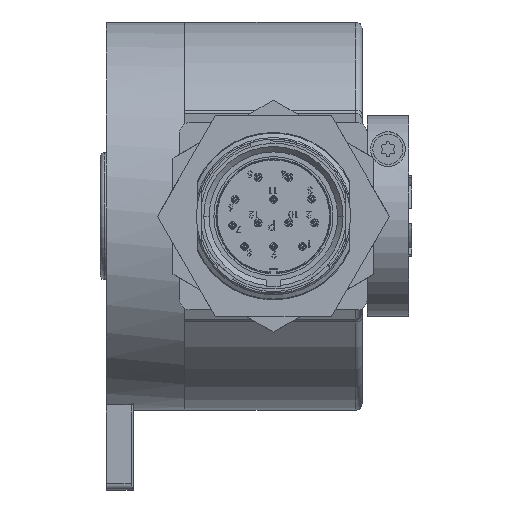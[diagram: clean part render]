
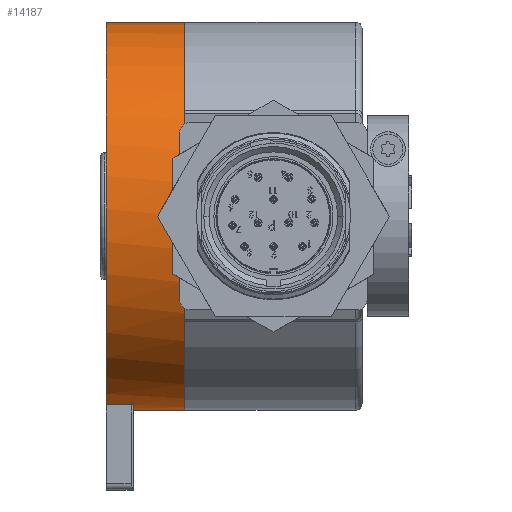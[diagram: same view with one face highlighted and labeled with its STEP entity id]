
A CAD part, front view. The second image highlights one B-rep face of the part: STEP entity #14187.
In plain terms, the highlighted cylindrical face has radius 29 mm (diameter 58 mm), a partial arc.
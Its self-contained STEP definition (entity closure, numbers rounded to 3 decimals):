
#1674 = VERTEX_POINT ( 'NONE', #32426 ) ;
#2641 = ORIENTED_EDGE ( 'NONE', *, *, #61895, .T. ) ;
#3035 = CARTESIAN_POINT ( 'NONE',  ( 8.068, 25.423, -29. ) ) ;
#3218 = ORIENTED_EDGE ( 'NONE', *, *, #39783, .F. ) ;
#3228 = CARTESIAN_POINT ( 'NONE',  ( 8.068, 25.423, 0. ) ) ;
#3480 = CARTESIAN_POINT ( 'NONE',  ( 0.378, 25.423, -29. ) ) ;
#4851 = CARTESIAN_POINT ( 'NONE',  ( 8.068, 25.423, -29. ) ) ;
#5657 = DIRECTION ( 'NONE',  ( 1., 0., 0. ) ) ;
#5720 = CIRCLE ( 'NONE', #23736, 29. ) ;
#8698 = ORIENTED_EDGE ( 'NONE', *, *, #23693, .T. ) ;
#11272 = DIRECTION ( 'NONE',  ( 0., 0., -1. ) ) ;
#13933 = ORIENTED_EDGE ( 'NONE', *, *, #43936, .F. ) ;
#14187 = ADVANCED_FACE ( 'NONE', ( #63379 ), #63713, .T. ) ;
#16147 = VERTEX_POINT ( 'NONE', #3035 ) ;
#16614 = LINE ( 'NONE', #41522, #52078 ) ;
#19032 = CARTESIAN_POINT ( 'NONE',  ( 8.068, 25.423, 0. ) ) ;
#19864 = AXIS2_PLACEMENT_3D ( 'NONE', #26577, #5657, #25915 ) ;
#23693 = EDGE_CURVE ( 'NONE', #1674, #47381, #50218, .T. ) ;
#23736 = AXIS2_PLACEMENT_3D ( 'NONE', #19032, #54551, #24968 ) ;
#24968 = DIRECTION ( 'NONE',  ( 0., 0., -1. ) ) ;
#25303 = VERTEX_POINT ( 'NONE', #40369 ) ;
#25915 = DIRECTION ( 'NONE',  ( 0., 0., 1. ) ) ;
#26577 = CARTESIAN_POINT ( 'NONE',  ( 0.378, 25.423, 0. ) ) ;
#28107 = DIRECTION ( 'NONE',  ( 1., 0., 0. ) ) ;
#29038 = LINE ( 'NONE', #44326, #49649 ) ;
#30135 = VERTEX_POINT ( 'NONE', #60687 ) ;
#32426 = CARTESIAN_POINT ( 'NONE',  ( -3.622, 25.423, 29. ) ) ;
#34855 = ORIENTED_EDGE ( 'NONE', *, *, #64042, .F. ) ;
#39783 = EDGE_CURVE ( 'NONE', #1674, #30135, #16614, .T. ) ;
#40369 = CARTESIAN_POINT ( 'NONE',  ( 0.378, 18.423, -28.142 ) ) ;
#40569 = EDGE_CURVE ( 'NONE', #64668, #16147, #65354, .T. ) ;
#41043 = DIRECTION ( 'NONE',  ( 1., 0., 0. ) ) ;
#41522 = CARTESIAN_POINT ( 'NONE',  ( 8.068, 25.423, 29. ) ) ;
#43029 = CARTESIAN_POINT ( 'NONE',  ( -3.622, 18.423, -28.142 ) ) ;
#43422 = ORIENTED_EDGE ( 'NONE', *, *, #40569, .T. ) ;
#43936 = EDGE_CURVE ( 'NONE', #30135, #16147, #5720, .T. ) ;
#44326 = CARTESIAN_POINT ( 'NONE',  ( 8.068, 18.423, -28.142 ) ) ;
#47381 = VERTEX_POINT ( 'NONE', #43029 ) ;
#47776 = CARTESIAN_POINT ( 'NONE',  ( -3.622, 25.423, 0. ) ) ;
#48525 = CIRCLE ( 'NONE', #19864, 29. ) ;
#49649 = VECTOR ( 'NONE', #65289, 1000. ) ;
#50091 = VECTOR ( 'NONE', #41043, 1000. ) ;
#50218 = CIRCLE ( 'NONE', #58715, 29. ) ;
#50824 = DIRECTION ( 'NONE',  ( 1., 0., 0. ) ) ;
#52078 = VECTOR ( 'NONE', #50824, 1000. ) ;
#52088 = DIRECTION ( 'NONE',  ( 1., 0., 0. ) ) ;
#54551 = DIRECTION ( 'NONE',  ( 1., 0., 0. ) ) ;
#58024 = DIRECTION ( 'NONE',  ( 0., 0., -1. ) ) ;
#58715 = AXIS2_PLACEMENT_3D ( 'NONE', #47776, #52088, #11272 ) ;
#60687 = CARTESIAN_POINT ( 'NONE',  ( 8.068, 25.423, 29. ) ) ;
#61895 = EDGE_CURVE ( 'NONE', #25303, #64668, #48525, .T. ) ;
#63090 = AXIS2_PLACEMENT_3D ( 'NONE', #3228, #28107, #58024 ) ;
#63379 = FACE_OUTER_BOUND ( 'NONE', #65568, .T. ) ;
#63713 = CYLINDRICAL_SURFACE ( 'NONE', #63090, 29. ) ;
#64042 = EDGE_CURVE ( 'NONE', #25303, #47381, #29038, .T. ) ;
#64668 = VERTEX_POINT ( 'NONE', #3480 ) ;
#65289 = DIRECTION ( 'NONE',  ( -1., 0., 0. ) ) ;
#65354 = LINE ( 'NONE', #4851, #50091 ) ;
#65568 = EDGE_LOOP ( 'NONE', ( #3218, #8698, #34855, #2641, #43422, #13933 ) ) ;
